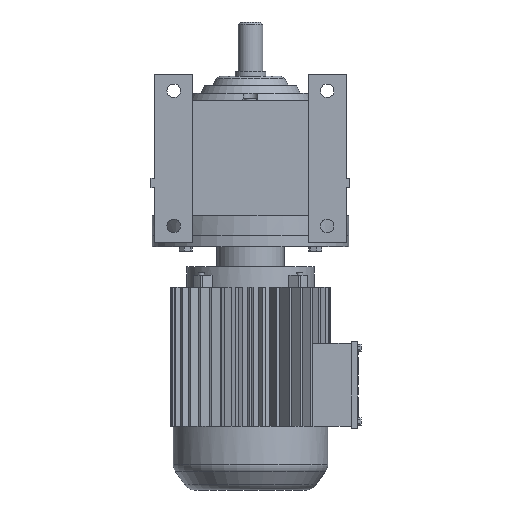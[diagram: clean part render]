
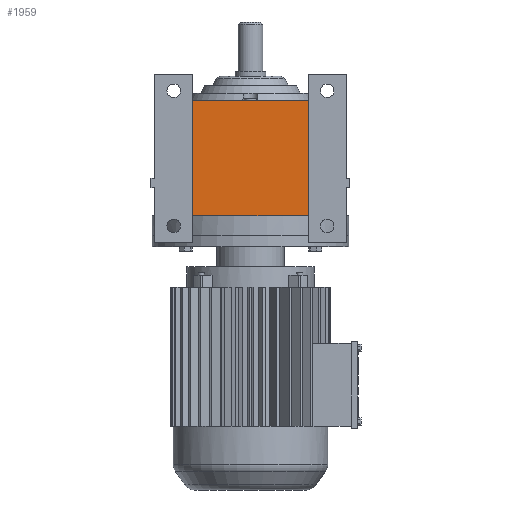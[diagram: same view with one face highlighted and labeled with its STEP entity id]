
A CAD part, front view. The second image highlights one B-rep face of the part: STEP entity #1959.
In plain terms, the highlighted planar face has unit normal (0, -1, 0).
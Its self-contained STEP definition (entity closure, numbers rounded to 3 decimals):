
#624 = PLANE('',#625);
#625 = AXIS2_PLACEMENT_3D('',#626,#627,#628);
#626 = CARTESIAN_POINT('',(-59.916,16.3,109.75));
#627 = DIRECTION('',(0.,0.,1.));
#628 = DIRECTION('',(1.,0.,0.));
#690 = VERTEX_POINT('',#691);
#691 = CARTESIAN_POINT('',(-47.,-112.,109.75));
#707 = PLANE('',#708);
#708 = AXIS2_PLACEMENT_3D('',#709,#710,#711);
#709 = CARTESIAN_POINT('',(-47.,-97.,-5.5));
#710 = DIRECTION('',(1.,0.,0.));
#711 = DIRECTION('',(0.,0.,-1.));
#719 = EDGE_CURVE('',#690,#720,#722,.T.);
#720 = VERTEX_POINT('',#721);
#721 = CARTESIAN_POINT('',(47.,-112.,109.75));
#722 = SURFACE_CURVE('',#723,(#727,#734),.PCURVE_S1.);
#723 = LINE('',#724,#725);
#724 = CARTESIAN_POINT('',(-78.,-112.,109.75));
#725 = VECTOR('',#726,1.);
#726 = DIRECTION('',(1.,0.,0.));
#727 = PCURVE('',#624,#728);
#728 = DEFINITIONAL_REPRESENTATION('',(#729),#733);
#729 = LINE('',#730,#731);
#730 = CARTESIAN_POINT('',(-18.084,-128.3));
#731 = VECTOR('',#732,1.);
#732 = DIRECTION('',(1.,0.));
#733 = ( GEOMETRIC_REPRESENTATION_CONTEXT(2) 
PARAMETRIC_REPRESENTATION_CONTEXT() REPRESENTATION_CONTEXT('2D SPACE',''
  ) );
#734 = PCURVE('',#735,#740);
#735 = PLANE('',#736);
#736 = AXIS2_PLACEMENT_3D('',#737,#738,#739);
#737 = CARTESIAN_POINT('',(-78.,-112.,109.75));
#738 = DIRECTION('',(0.,1.,0.));
#739 = DIRECTION('',(0.,0.,1.));
#740 = DEFINITIONAL_REPRESENTATION('',(#741),#745);
#741 = LINE('',#742,#743);
#742 = CARTESIAN_POINT('',(0.,0.));
#743 = VECTOR('',#744,1.);
#744 = DIRECTION('',(0.,1.));
#745 = ( GEOMETRIC_REPRESENTATION_CONTEXT(2) 
PARAMETRIC_REPRESENTATION_CONTEXT() REPRESENTATION_CONTEXT('2D SPACE',''
  ) );
#763 = PLANE('',#764);
#764 = AXIS2_PLACEMENT_3D('',#765,#766,#767);
#765 = CARTESIAN_POINT('',(47.,-97.,-5.5));
#766 = DIRECTION('',(-1.,0.,0.));
#767 = DIRECTION('',(0.,0.,1.));
#1959 = ADVANCED_FACE('',(#1960),#735,.F.);
#1960 = FACE_BOUND('',#1961,.T.);
#1961 = EDGE_LOOP('',(#1962,#1963,#1986,#2014));
#1962 = ORIENTED_EDGE('',*,*,#719,.F.);
#1963 = ORIENTED_EDGE('',*,*,#1964,.T.);
#1964 = EDGE_CURVE('',#690,#1965,#1967,.T.);
#1965 = VERTEX_POINT('',#1966);
#1966 = CARTESIAN_POINT('',(-47.,-112.,16.25));
#1967 = SURFACE_CURVE('',#1968,(#1972,#1979),.PCURVE_S1.);
#1968 = LINE('',#1969,#1970);
#1969 = CARTESIAN_POINT('',(-47.,-112.,109.75));
#1970 = VECTOR('',#1971,1.);
#1971 = DIRECTION('',(0.,0.,-1.));
#1972 = PCURVE('',#735,#1973);
#1973 = DEFINITIONAL_REPRESENTATION('',(#1974),#1978);
#1974 = LINE('',#1975,#1976);
#1975 = CARTESIAN_POINT('',(0.,31.));
#1976 = VECTOR('',#1977,1.);
#1977 = DIRECTION('',(-1.,0.));
#1978 = ( GEOMETRIC_REPRESENTATION_CONTEXT(2) 
PARAMETRIC_REPRESENTATION_CONTEXT() REPRESENTATION_CONTEXT('2D SPACE',''
  ) );
#1979 = PCURVE('',#707,#1980);
#1980 = DEFINITIONAL_REPRESENTATION('',(#1981),#1985);
#1981 = LINE('',#1982,#1983);
#1982 = CARTESIAN_POINT('',(-115.25,-15.));
#1983 = VECTOR('',#1984,1.);
#1984 = DIRECTION('',(1.,0.));
#1985 = ( GEOMETRIC_REPRESENTATION_CONTEXT(2) 
PARAMETRIC_REPRESENTATION_CONTEXT() REPRESENTATION_CONTEXT('2D SPACE',''
  ) );
#1986 = ORIENTED_EDGE('',*,*,#1987,.T.);
#1987 = EDGE_CURVE('',#1965,#1988,#1990,.T.);
#1988 = VERTEX_POINT('',#1989);
#1989 = CARTESIAN_POINT('',(47.,-112.,16.25));
#1990 = SURFACE_CURVE('',#1991,(#1995,#2002),.PCURVE_S1.);
#1991 = LINE('',#1992,#1993);
#1992 = CARTESIAN_POINT('',(-78.,-112.,16.25));
#1993 = VECTOR('',#1994,1.);
#1994 = DIRECTION('',(1.,0.,0.));
#1995 = PCURVE('',#735,#1996);
#1996 = DEFINITIONAL_REPRESENTATION('',(#1997),#2001);
#1997 = LINE('',#1998,#1999);
#1998 = CARTESIAN_POINT('',(-93.5,0.));
#1999 = VECTOR('',#2000,1.);
#2000 = DIRECTION('',(0.,1.));
#2001 = ( GEOMETRIC_REPRESENTATION_CONTEXT(2) 
PARAMETRIC_REPRESENTATION_CONTEXT() REPRESENTATION_CONTEXT('2D SPACE',''
  ) );
#2002 = PCURVE('',#2003,#2008);
#2003 = PLANE('',#2004);
#2004 = AXIS2_PLACEMENT_3D('',#2005,#2006,#2007);
#2005 = CARTESIAN_POINT('',(-59.916,16.3,16.25));
#2006 = DIRECTION('',(0.,0.,1.));
#2007 = DIRECTION('',(1.,0.,0.));
#2008 = DEFINITIONAL_REPRESENTATION('',(#2009),#2013);
#2009 = LINE('',#2010,#2011);
#2010 = CARTESIAN_POINT('',(-18.084,-128.3));
#2011 = VECTOR('',#2012,1.);
#2012 = DIRECTION('',(1.,0.));
#2013 = ( GEOMETRIC_REPRESENTATION_CONTEXT(2) 
PARAMETRIC_REPRESENTATION_CONTEXT() REPRESENTATION_CONTEXT('2D SPACE',''
  ) );
#2014 = ORIENTED_EDGE('',*,*,#2015,.T.);
#2015 = EDGE_CURVE('',#1988,#720,#2016,.T.);
#2016 = SURFACE_CURVE('',#2017,(#2021,#2028),.PCURVE_S1.);
#2017 = LINE('',#2018,#2019);
#2018 = CARTESIAN_POINT('',(47.,-112.,109.75));
#2019 = VECTOR('',#2020,1.);
#2020 = DIRECTION('',(0.,0.,1.));
#2021 = PCURVE('',#735,#2022);
#2022 = DEFINITIONAL_REPRESENTATION('',(#2023),#2027);
#2023 = LINE('',#2024,#2025);
#2024 = CARTESIAN_POINT('',(0.,125.));
#2025 = VECTOR('',#2026,1.);
#2026 = DIRECTION('',(1.,0.));
#2027 = ( GEOMETRIC_REPRESENTATION_CONTEXT(2) 
PARAMETRIC_REPRESENTATION_CONTEXT() REPRESENTATION_CONTEXT('2D SPACE',''
  ) );
#2028 = PCURVE('',#763,#2029);
#2029 = DEFINITIONAL_REPRESENTATION('',(#2030),#2034);
#2030 = LINE('',#2031,#2032);
#2031 = CARTESIAN_POINT('',(115.25,-15.));
#2032 = VECTOR('',#2033,1.);
#2033 = DIRECTION('',(1.,0.));
#2034 = ( GEOMETRIC_REPRESENTATION_CONTEXT(2) 
PARAMETRIC_REPRESENTATION_CONTEXT() REPRESENTATION_CONTEXT('2D SPACE',''
  ) );
